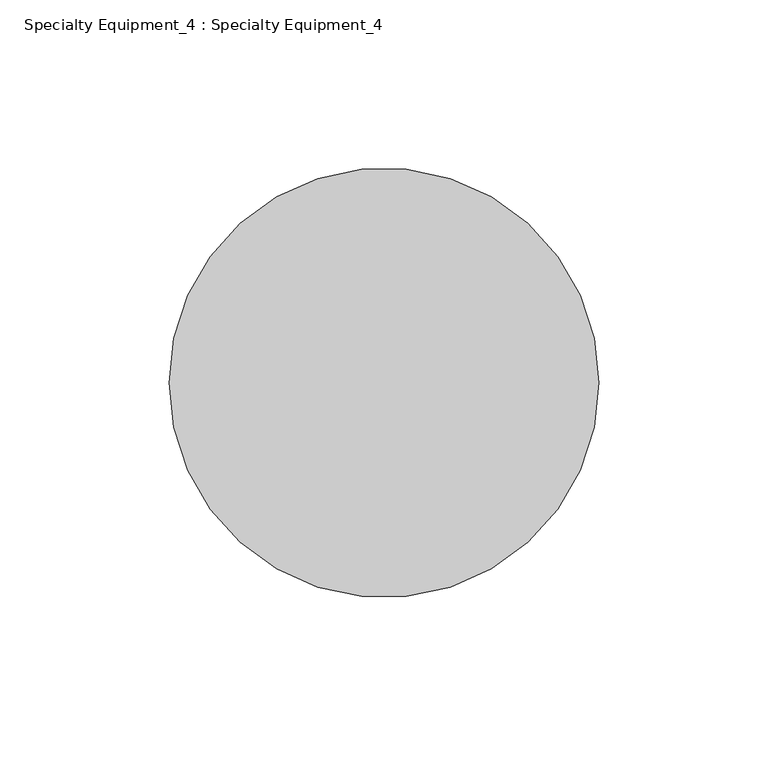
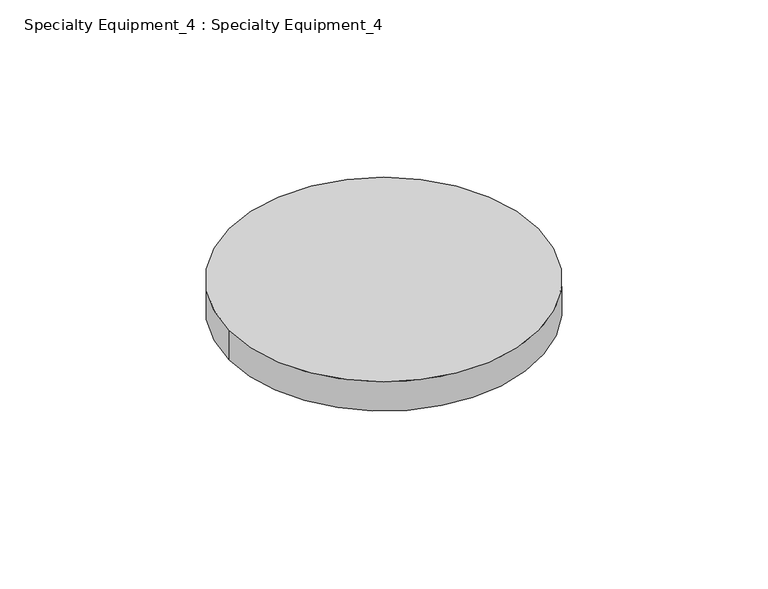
"""IFC4 building model written with IfcOpenShell, lengths in millimetres: proxy geometry, Specialty Equipment_4 : Specialty Equipment_4."""

from ifc_helpers import new_model, si_unit, point, frame, origin, origin_2d, place, context, project, spatial, circle_curve, trimmed, segment, composite_curve, outline, extrude, source, transform, mapped, element, save


def specialty_equipment_4_specialty_equipment_4_47f9b433(model_context):
    return source(origin(), model_context, "Body", "SweptSolid", [
        extrude(outline(composite_curve([segment(trimmed(circle_curve(origin_2d(), 63.5), [point((-63.5, 0.0))], [point((63.5, 0.0))], False, "CARTESIAN"), True, "CONTINUOUS"), segment(trimmed(circle_curve(origin_2d(), 63.5), [point((63.5, 0.0))], [point((-63.5, 0.0))], False, "CARTESIAN"), True, "CONTINUOUS")], self_intersect=False)), frame((0.0, 0.0, -12.7), z_axis=(0.0, 0.0, 1.0), x_axis=(1.0, 0.0, 0.0)), (0.0, 0.0, 1.0), 12.7),
    ])


if __name__ == "__main__":
    model = new_model("IFC4")
    model_context = context("Model", 3, world=origin())
    ifc_project = project(units=[si_unit("LENGTHUNIT", "METRE", prefix="MILLI")], contexts=[model_context])
    site = spatial("IfcSite", under=ifc_project)
    building = spatial("IfcBuilding", under=site)
    placement = place(None, origin())
    specialty_equipment_4_specialty_equipment_4_shape = specialty_equipment_4_specialty_equipment_4_47f9b433(model_context)
    element("IfcBuildingElementProxy", 1, Name="Specialty Equipment_4 : Specialty Equipment_4", ObjectType="Specialty Equipment_4 : Specialty Equipment_4", at=placement, inside=building, context=model_context, shape_type="MappedRepresentation", body=[
        mapped(specialty_equipment_4_specialty_equipment_4_shape, transform((0.0, 0.0, 0.0), x_axis=(1.0, 0.0, 0.0), y_axis=(0.0, 1.0, 0.0), z_axis=(0.0, 0.0, 1.0))),
    ])
    save(model, "model.ifc")
